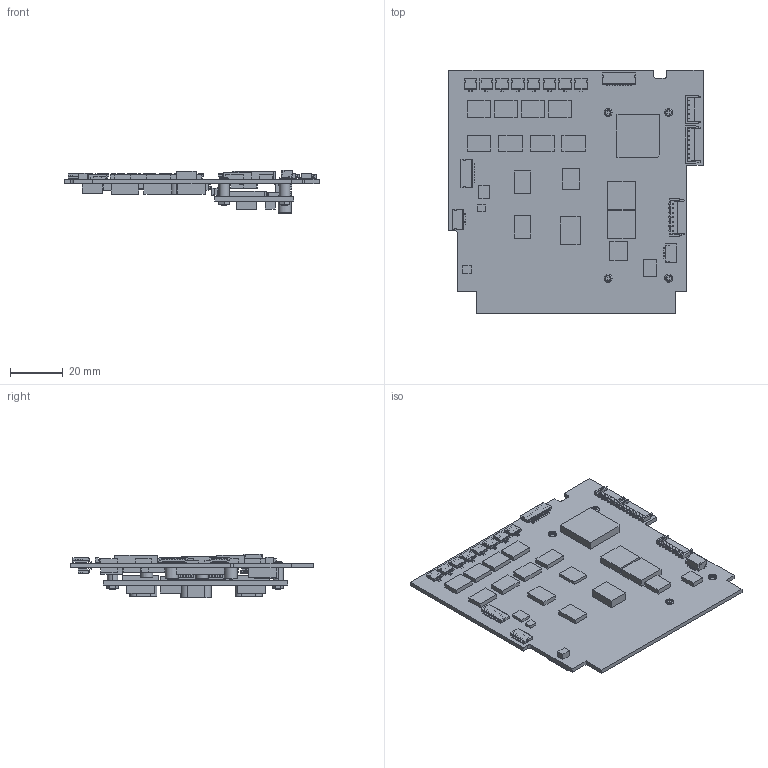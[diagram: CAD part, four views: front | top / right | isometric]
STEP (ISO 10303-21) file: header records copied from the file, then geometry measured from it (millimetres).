
FILE_DESCRIPTION((''),'2;1');
FILE_NAME('CDH_BOARD_ASM','2020-03-13T',('g0715'),(''),'PRO/ENGINEER BY PARAMETRIC TECHNOLOGY CORPORATION, 2014090','PRO/ENGINEER BY PARAMETRIC TECHNOLOGY CORPORATION, 2014090','');
FILE_SCHEMA(('CONFIG_CONTROL_DESIGN'));
Products named in the file (47): B_BOARD_NEXUS; SPASOR_5; CAMSYSTEM_BOARD; FIFO; 20MHZ; ROM; 32KHZ; STM; LM1117; 8MHZ; SM20B-SRSS-TB; SM10B-SHLS-TF; DF12; SHR-20V-S-B; CAM_BOARD_ASM; NEZI_M2_L7; NUT_M2; LMC6464; MCP3208; LTC3261; MCP1525; CMX589AE2; FX614; NLFC322522T; H8_3048; M25P128; TC1262; FSAL200; SM02B-SHLS-TF; SM05B-SHLS-TF; SM05B-SRSS; SM08B-SHLS-TF; DF65-5P-1_7V; DF65-7P-1_7V; LMC6462; ISD17240; ADXRS453; ATK109; PIC16F877; BAT43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
Assembly tree (94 placements, depth 3):
  CDH_BOARD_ASM
    B_BOARD_NEXUS
    SPASOR_5  x4
    CAM_BOARD_ASM
      CAMSYSTEM_BOARD
      FIFO  x2
      20MHZ  x2
      ROM  x2
      32KHZ
      STM
      LM1117  x2
      8MHZ
      SM20B-SRSS-TB
      SM10B-SHLS-TF
      DF12
      SHR-20V-S-B
    NEZI_M2_L7  x4
    NUT_M2  x4
    LMC6464  x10
    MCP3208  x4
    LTC3261
    MCP1525
    CMX589AE2
    FX614
    NLFC322522T
    H8_3048
    M25P128  x2
    TC1262
    FSAL200  x2
    SM02B-SHLS-TF  x16
    SM05B-SHLS-TF
    SM05B-SRSS
    SM08B-SHLS-TF
    SM10B-SHLS-TF
    DF65-5P-1_7V
    DF65-7P-1_7V  x2
    LMC6462
    LM1117
    ISD17240
    ADXRS453
    ATK109  x3
    PIC16F877
    BAT43
    DF12_5-0_20DP_0-5V
    SM06B-SHLS-TF
    3_57945
    4_9152MHZ
    16MHZ
    20MHZ
    MC-306
Bounding box: 96.6 x 92.5 x 16.46 mm (x, y, z)
Volume: 27203.8 mm3; surface area: 38893.8 mm2
Topology: 93 solids, 97 shells, 5709 faces, 15702 edges, 10312 vertices
Faces by surface type: plane 5310, cylinder 377, cone 8, torus 8, extrusion 6
Entity records: 118334 total; most frequent: CARTESIAN_POINT 21057, ORIENTED_EDGE 20616, DIRECTION 18788, EDGE_CURVE 10310, VECTOR 9614, LINE 9610, VERTEX_POINT 6774, AXIS2_PLACEMENT_3D 4587
